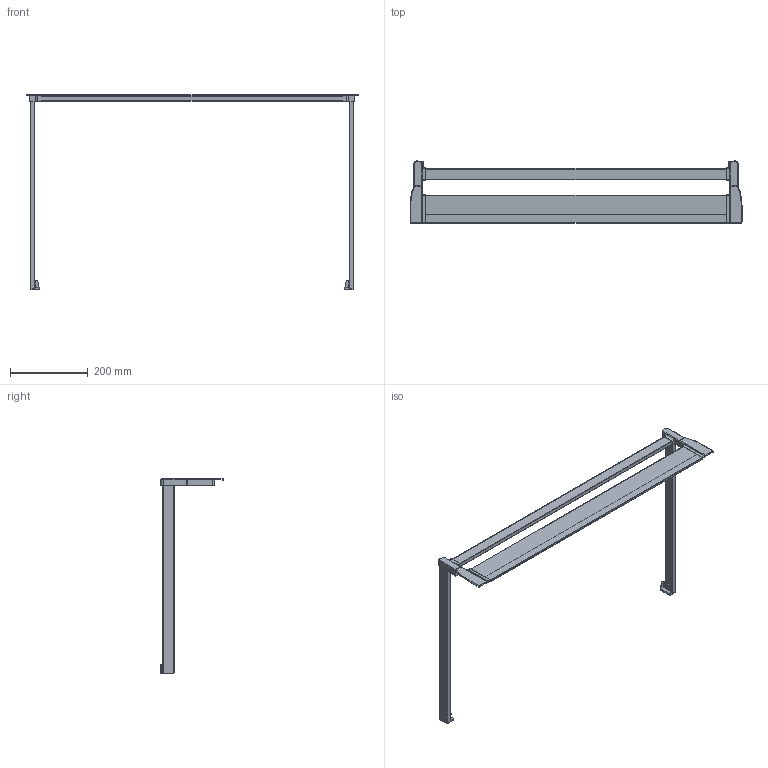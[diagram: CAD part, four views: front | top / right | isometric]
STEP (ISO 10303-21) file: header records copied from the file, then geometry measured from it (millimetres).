
FILE_DESCRIPTION (( 'STEP AP214' ), '1' );
FILE_NAME ('1_P620_NL 500_KAB 900_19er KS_.step', '2009-09-16T06:29:51', ( 'Waldinger Reinhard' ), ( 'Grass GmbH' ), 'SwSTEP 2.0', 'SolidWorks 2009', '' );
FILE_SCHEMA (( 'AUTOMOTIVE_DESIGN' ));
Length unit declared in the file: millimetre
Products named in the file (1): 1_P620_NL 500_KAB 900_19er KS_
Bounding box: 853.6 x 160.5 x 502.8 mm (x, y, z)
Volume: 1329635.9 mm3; surface area: 310813.9 mm2
Topology: 1 solids, 1 shells, 218 faces, 576 edges, 364 vertices
Faces by surface type: plane 97, cylinder 89, torus 28, sphere 2, bspline 2
Entity records: 6974 total; most frequent: CARTESIAN_POINT 1341, DIRECTION 1192, ORIENTED_EDGE 1148, EDGE_CURVE 574, AXIS2_PLACEMENT_3D 431, VERTEX_POINT 364, VECTOR 330, LINE 330
